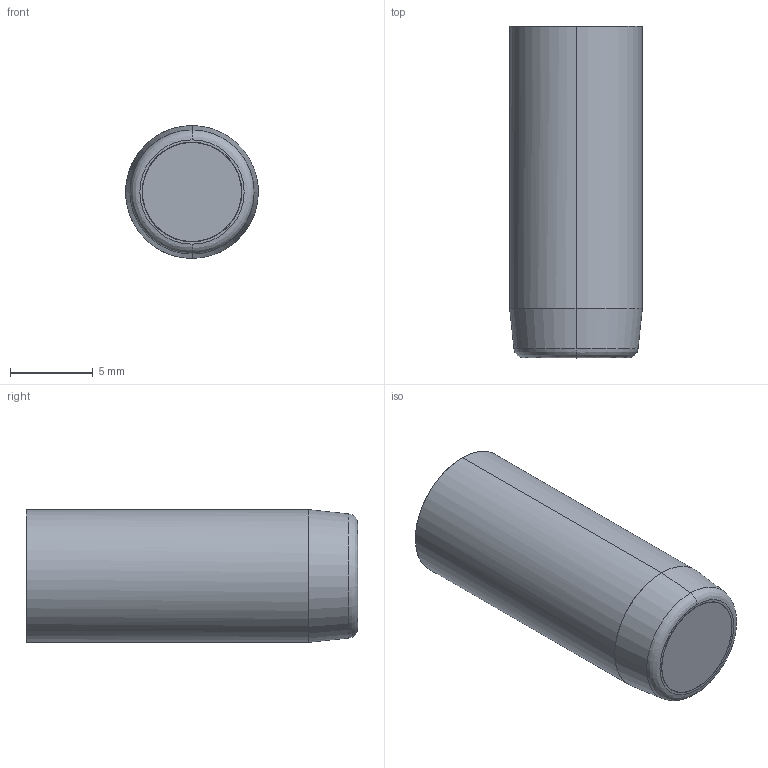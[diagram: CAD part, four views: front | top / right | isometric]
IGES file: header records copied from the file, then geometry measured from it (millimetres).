
Start section: START RECORD GO HERE.
Global section: file name: fa084700.igs; native system: DASSAULT SYSTEMES CATIA V5 R20 - www.3ds.com; preprocessor: CATIA Version 5 Release 20 ; author: Utente; organization: NB04-ASUS; date: 20201108.083811; units: millimetre
Bounding box: 8 x 20 x 8 mm (x, y, z)
Surface area: 1503.9 mm2 (no closed solid volume)
Topology: 0 solids, 0 shells, 187 faces, 811 edges, 808 vertices
Faces by surface type: bspline 76, revolution 68, plane 43
